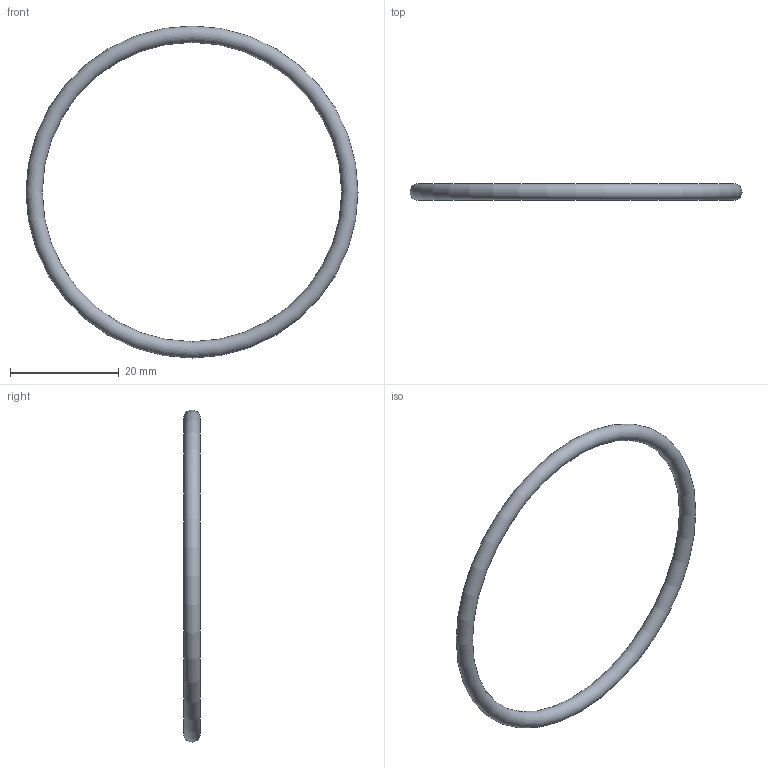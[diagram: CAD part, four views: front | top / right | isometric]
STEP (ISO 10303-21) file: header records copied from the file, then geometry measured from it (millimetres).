
FILE_DESCRIPTION( ( 'STEP AP203' ), '1' );
FILE_NAME( 'C:/Temp/Ganter_Step_05_03_2020/data/3_5/or638/O-Ring OR638-55.00-3.00-70.stp', '2020-03-12T13:44:31', ( 'License CC BY-ND 4.0' ), ( 'CADENAS' ), ' ', 'PARTsolutions', ' ' );
FILE_SCHEMA( ( 'CONFIG_CONTROL_DESIGN' ) );
Length unit declared in the file: millimetre
Products named in the file (1): _O-Ring OR638-55.00-3.00-70
Bounding box: 61 x 3 x 61 mm (x, y, z)
Volume: 1288 mm3; surface area: 1717.3 mm2
Topology: 1 solids, 1 shells, 1 faces, 2 edges, 1 vertices
Faces by surface type: torus 1
Entity records: 62 total; most frequent: CC_DESIGN_PERSON_AND_ORGANIZATION_ASSIGNMENT 5, PERSON_AND_ORGANIZATION_ROLE 4, DIRECTION 4, CARTESIAN_POINT 3, DATE_TIME_ROLE 2, CC_DESIGN_DATE_AND_TIME_ASSIGNMENT 2, AXIS2_PLACEMENT_3D 2, DIMENSIONAL_EXPONENTS 2
